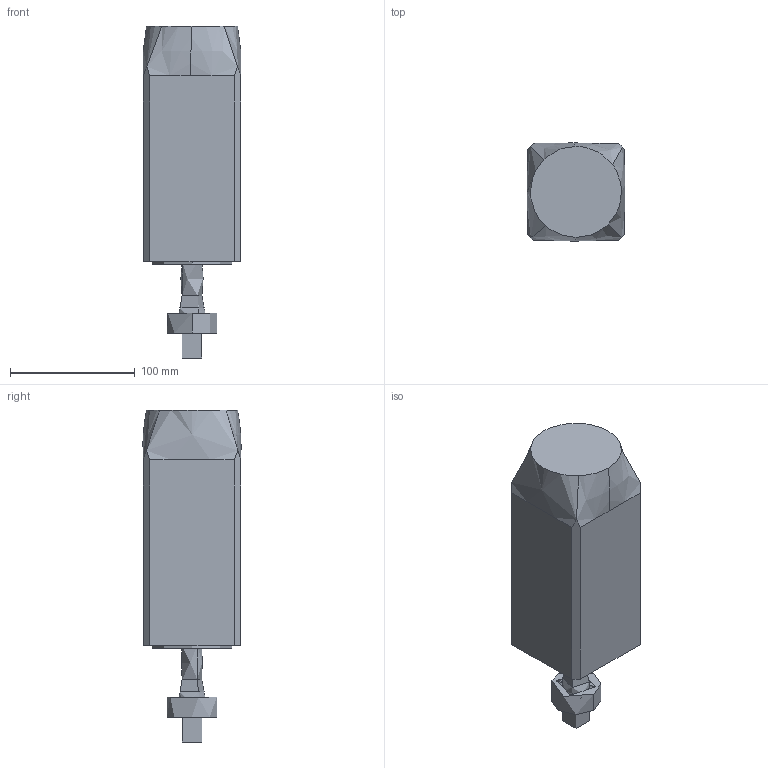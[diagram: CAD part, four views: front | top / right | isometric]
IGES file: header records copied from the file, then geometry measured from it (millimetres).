
Start section: CENTAUR IGES file output
Global section: file name: Geometry_TNF_HYLON_2023.igs; native system: CENTAUR IGES Converter; preprocessor: 4.0B2; author: aaniello; organization: None; date: 20230111.114339; units: millimetre
Bounding box: 78.14 x 78.74 x 266.2 mm (x, y, z)
Surface area: 80485.5 mm2 (no closed solid volume)
Topology: 0 solids, 0 shells, 91 faces, 910 edges, 910 vertices
Faces by surface type: bspline 91
